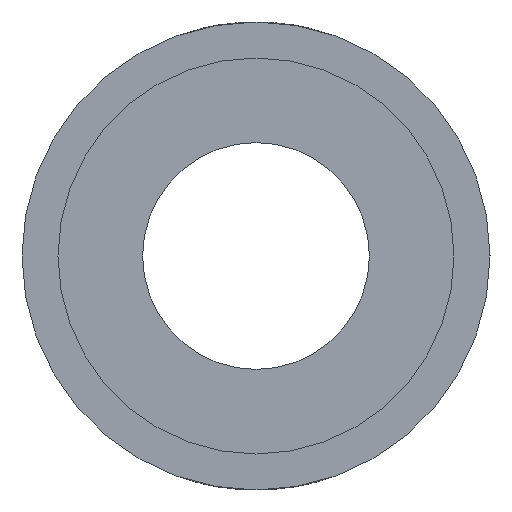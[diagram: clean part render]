
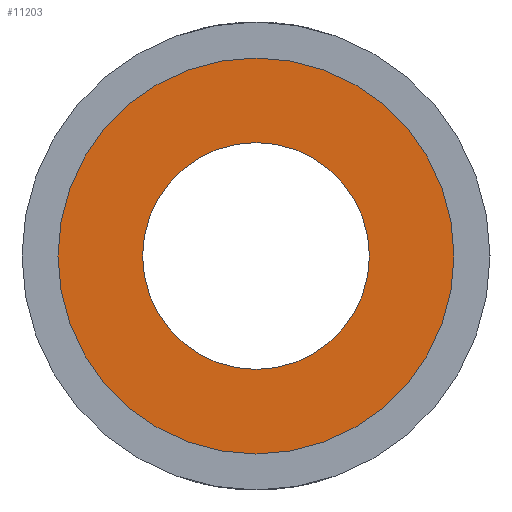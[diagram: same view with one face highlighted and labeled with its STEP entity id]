
A CAD part, left-side view. The second image highlights one B-rep face of the part: STEP entity #11203.
In plain terms, the highlighted planar face has unit normal (-1, 0, 0).
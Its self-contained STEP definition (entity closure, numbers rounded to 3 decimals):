
#292 = AXIS2_PLACEMENT_3D ( 'NONE', #1348, #7626, #6472 ) ;
#604 = CARTESIAN_POINT ( 'NONE',  ( -33.5, 0., 0. ) ) ;
#630 = FACE_BOUND ( 'NONE', #5570, .T. ) ;
#1348 = CARTESIAN_POINT ( 'NONE',  ( -33.5, 0., 0. ) ) ;
#1381 = AXIS2_PLACEMENT_3D ( 'NONE', #11057, #10775, #9806 ) ;
#1613 = AXIS2_PLACEMENT_3D ( 'NONE', #5075, #1883, #6044 ) ;
#1724 = CARTESIAN_POINT ( 'NONE',  ( -33.5, 0., 0. ) ) ;
#1883 = DIRECTION ( 'NONE',  ( 1., 0., 0. ) ) ;
#2039 = CIRCLE ( 'NONE', #1381, 3.15 ) ;
#2596 = VERTEX_POINT ( 'NONE', #8070 ) ;
#2862 = ORIENTED_EDGE ( 'NONE', *, *, #12494, .F. ) ;
#3116 = VERTEX_POINT ( 'NONE', #5944 ) ;
#3587 = AXIS2_PLACEMENT_3D ( 'NONE', #604, #3800, #12210 ) ;
#3752 = AXIS2_PLACEMENT_3D ( 'NONE', #1724, #6211, #5384 ) ;
#3800 = DIRECTION ( 'NONE',  ( 1., 0., 0. ) ) ;
#5075 = CARTESIAN_POINT ( 'NONE',  ( -33.5, 0., 0. ) ) ;
#5311 = CARTESIAN_POINT ( 'NONE',  ( -33.5, 0., -3.15 ) ) ;
#5384 = DIRECTION ( 'NONE',  ( 0., 0., -1. ) ) ;
#5565 = ORIENTED_EDGE ( 'NONE', *, *, #13176, .T. ) ;
#5570 = EDGE_LOOP ( 'NONE', ( #5565, #9712 ) ) ;
#5944 = CARTESIAN_POINT ( 'NONE',  ( -33.5, 0., 3.15 ) ) ;
#5990 = CIRCLE ( 'NONE', #3587, 5.5 ) ;
#6044 = DIRECTION ( 'NONE',  ( 0., 0., -1. ) ) ;
#6211 = DIRECTION ( 'NONE',  ( -1., 0., 0. ) ) ;
#6472 = DIRECTION ( 'NONE',  ( 0., 0., -1. ) ) ;
#6752 = EDGE_CURVE ( 'NONE', #2596, #11265, #5990, .T. ) ;
#6901 = FACE_OUTER_BOUND ( 'NONE', #9175, .T. ) ;
#7626 = DIRECTION ( 'NONE',  ( 1., 0., 0. ) ) ;
#8070 = CARTESIAN_POINT ( 'NONE',  ( -33.5, 0., -5.5 ) ) ;
#8130 = VERTEX_POINT ( 'NONE', #5311 ) ;
#9175 = EDGE_LOOP ( 'NONE', ( #13456, #2862 ) ) ;
#9712 = ORIENTED_EDGE ( 'NONE', *, *, #13046, .T. ) ;
#9806 = DIRECTION ( 'NONE',  ( 0., 0., -1. ) ) ;
#10775 = DIRECTION ( 'NONE',  ( 1., 0., 0. ) ) ;
#11057 = CARTESIAN_POINT ( 'NONE',  ( -33.5, 0., 0. ) ) ;
#11092 = PLANE ( 'NONE',  #3752 ) ;
#11203 = ADVANCED_FACE ( 'NONE', ( #630, #6901 ), #11092, .T. ) ;
#11265 = VERTEX_POINT ( 'NONE', #12633 ) ;
#11407 = CIRCLE ( 'NONE', #292, 5.5 ) ;
#12210 = DIRECTION ( 'NONE',  ( 0., 0., -1. ) ) ;
#12296 = CIRCLE ( 'NONE', #1613, 3.15 ) ;
#12494 = EDGE_CURVE ( 'NONE', #11265, #2596, #11407, .T. ) ;
#12633 = CARTESIAN_POINT ( 'NONE',  ( -33.5, 0., 5.5 ) ) ;
#13046 = EDGE_CURVE ( 'NONE', #3116, #8130, #2039, .T. ) ;
#13176 = EDGE_CURVE ( 'NONE', #8130, #3116, #12296, .T. ) ;
#13456 = ORIENTED_EDGE ( 'NONE', *, *, #6752, .F. ) ;
